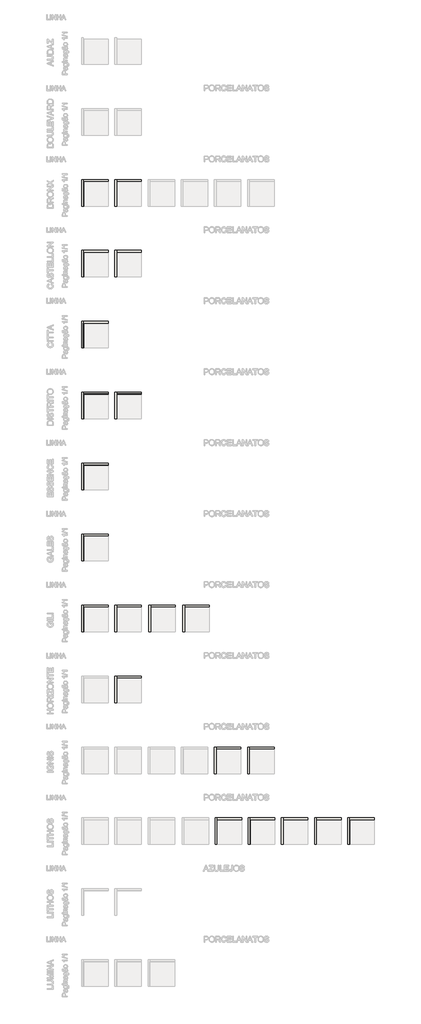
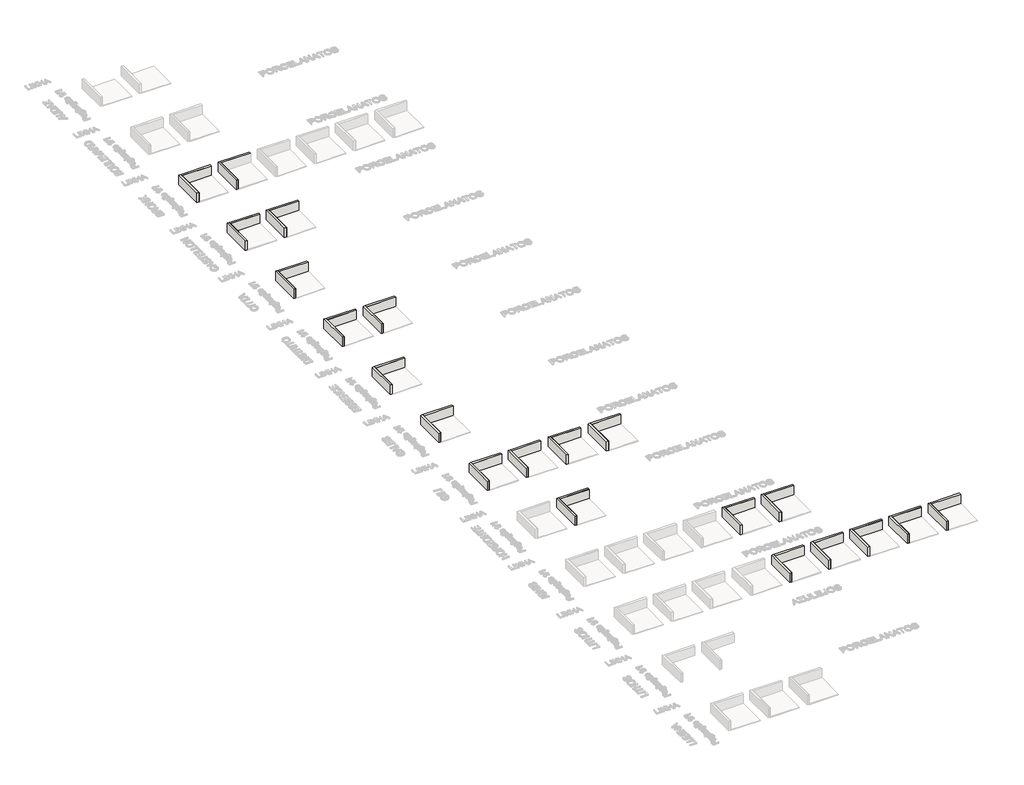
# One storey, part 4 of 22: 83 walls.
"""IFC4 building model written with IfcOpenShell, lengths in millimetres."""

import ifcopenshell
import ifcopenshell.guid

model = None  # the IFC model being written
_history = None  # IfcOwnerHistory: only IFC2X3 demands one
_inside = {}  # id of a spatial element -> (the spatial element, [elements in it])
_under = {}  # id of a project, library or spatial element -> (it, [spatial elements below it])
_declared = {}  # id of a project -> (the project, [libraries it declares])
_typed = {}  # id of a type object -> (the type object, [elements of that type])
_made_of = {}  # id of a material, layer set ... -> (it, [elements and type objects made of it])


def new_model(schema):
    """Start an empty IFC model of exactly this schema.

    Asked for "IFC4X3", IfcOpenShell would pick the latest addendum, in which some entities
    have other attributes; the version numbers below select the first issue.
    IFC2X3 requires an IfcOwnerHistory on every rooted entity: one is made here for all.
    """
    global model, _history
    if schema == "IFC4X3":
        model = ifcopenshell.file(schema_version=(4, 3, 0, 0))
    else:
        model = ifcopenshell.file(schema=schema)
    _inside.clear()
    _under.clear()
    _declared.clear()
    _typed.clear()
    _made_of.clear()
    _history = None
    if model.schema == "IFC2X3":
        org = make("IfcOrganization", Name="unknown")
        user = make(
            "IfcPersonAndOrganization",
            ThePerson=make("IfcPerson", FamilyName="unknown"),
            TheOrganization=org,
        )
        app = make(
            "IfcApplication",
            ApplicationDeveloper=org,
            Version="unknown",
            ApplicationFullName="unknown",
            ApplicationIdentifier="unknown",
        )
        _history = make(
            "IfcOwnerHistory",
            OwningUser=user,
            OwningApplication=app,
            ChangeAction="ADDED",
            CreationDate=0,
        )
    return model


def make(cls, **values):
    """One entity of the class cls with the attributes given. An attribute that is None is left unset."""
    return model.create_entity(
        cls, **{name: value for name, value in values.items() if value is not None}
    )


def rooted(cls, **values):
    """An entity with a GlobalId (a new one), such as an element, a storey or a relation."""
    return make(cls, GlobalId=ifcopenshell.guid.new(), OwnerHistory=_history, **values)


def si_unit(unit_type, name, prefix=None):
    """IfcSIUnit, for example si_unit("LENGTHUNIT", "METRE", prefix="MILLI")."""
    return make("IfcSIUnit", UnitType=unit_type, Prefix=prefix, Name=name)


def assignment(units):
    """IfcUnitAssignment: the units of a project."""
    return None if units is None else make("IfcUnitAssignment", Units=units)


def point(xyz):
    """IfcCartesianPoint."""
    return None if xyz is None else make("IfcCartesianPoint", Coordinates=xyz)


def direction(xyz):
    """IfcDirection."""
    return None if xyz is None else make("IfcDirection", DirectionRatios=xyz)


def frame(location, z_axis=None, x_axis=None):
    """IfcAxis2Placement3D, a coordinate frame: its origin and axes. An axis left out is left unset."""
    return make(
        "IfcAxis2Placement3D",
        Location=point(location),
        Axis=direction(z_axis),
        RefDirection=direction(x_axis),
    )


def origin():
    """The frame at (0, 0, 0) with its axes left unset."""
    return frame((0.0, 0.0, 0.0))


def origin_with_axes():
    """The frame at (0, 0, 0) with the z axis (0, 0, 1) and the x axis (1, 0, 0) written out."""
    return frame((0.0, 0.0, 0.0), z_axis=(0.0, 0.0, 1.0), x_axis=(1.0, 0.0, 0.0))


def place(relative_to, where):
    """IfcLocalPlacement: puts the frame where relative to a parent placement (None: the world)."""
    return make(
        "IfcLocalPlacement", PlacementRelTo=relative_to, RelativePlacement=where
    )


def context(
    kind, dimensions, precision=None, world=None, true_north=None, identifier=None
):
    """IfcGeometricRepresentationContext, for example the 3D "Model" context."""
    return make(
        "IfcGeometricRepresentationContext",
        ContextIdentifier=identifier,
        ContextType=kind,
        CoordinateSpaceDimension=dimensions,
        Precision=precision,
        WorldCoordinateSystem=world,
        TrueNorth=true_north,
    )


def project(units=None, contexts=None):
    """IfcProject with its units and contexts."""
    return rooted(
        "IfcProject",
        Name="project",
        RepresentationContexts=contexts,
        UnitsInContext=assignment(units),
    )


def spatial(cls, under=None, at=None, **own):
    """A site, building, storey or space (cls), placed at a placement, below another one or the project."""
    s = rooted(cls, ObjectPlacement=at, **own)
    if under is not None:
        _under.setdefault(under.id(), (under, []))[1].append(s)
    return s


def polyline(points):
    """IfcPolyline through the points."""
    return make("IfcPolyline", Points=[point(p) for p in points])


def outline(outer, holes=None, kind="AREA"):
    """IfcArbitraryClosedProfileDef: a profile drawn as a closed curve; with holes, ...WithVoids."""
    if holes is None:
        return make("IfcArbitraryClosedProfileDef", ProfileType=kind, OuterCurve=outer)
    return make(
        "IfcArbitraryProfileDefWithVoids",
        ProfileType=kind,
        OuterCurve=outer,
        InnerCurves=holes,
    )


def extrude(swept, where, along, depth):
    """IfcExtrudedAreaSolid: the profile swept, set in the frame where, extruded along a direction by depth."""
    return make(
        "IfcExtrudedAreaSolid",
        SweptArea=swept,
        Position=where,
        ExtrudedDirection=direction(along),
        Depth=depth,
    )


def faces_of(points, faces, orient=None, outer=None):
    """IfcFace entities. A face is a list of loops; a loop is a list of indices into points, from 0.

    orient and outer hold one flag for each loop. By default every Orientation is true, the
    first loop of a face is its IfcFaceOuterBound and the others are IfcFaceBound.
    """
    made = []
    for i, loops in enumerate(faces):
        bounds = []
        for j, loop in enumerate(loops):
            is_outer = j == 0 if outer is None else outer[i][j]
            bounds.append(
                make(
                    "IfcFaceOuterBound" if is_outer else "IfcFaceBound",
                    Bound=make("IfcPolyLoop", Polygon=[points[k] for k in loop]),
                    Orientation=True if orient is None else orient[i][j],
                )
            )
        made.append(make("IfcFace", Bounds=bounds))
    return made


def faceted_brep(points, faces, orient=None, outer=None, voids=None):
    """IfcFacetedBrep: a solid bounded by flat faces; with voids (closed shells), ...WithVoids."""
    shared = [point(p) for p in points]
    hull = make("IfcClosedShell", CfsFaces=faces_of(shared, faces, orient, outer))
    if voids is None:
        return make("IfcFacetedBrep", Outer=hull)
    return make(
        "IfcFacetedBrepWithVoids",
        Outer=hull,
        Voids=[
            make(cls, CfsFaces=faces_of(shared, fs, o, b)) for cls, fs, o, b in voids
        ],
    )


def shape(context_of_items, identifier, shape_type, items):
    """IfcShapeRepresentation: the items that make up one representation, for example the "Body"."""
    return make(
        "IfcShapeRepresentation",
        ContextOfItems=context_of_items,
        RepresentationIdentifier=identifier,
        RepresentationType=shape_type,
        Items=items,
    )


def made_of(thing, what):
    """Note that an element or type object is made of a material, layer set ...; save() writes the relation."""
    if what is not None:
        _made_of.setdefault(what.id(), (what, []))[1].append(thing)
    return thing


def element(
    cls,
    number,
    at=None,
    inside=None,
    cuts=None,
    type_object=None,
    material=None,
    context=None,
    identifier="Body",
    shape_type=None,
    held_by="IfcProductDefinitionShape",
    body=None,
    shapes=None,
    **own,
):
    """One element of the class cls, such as IfcWall. Its Tag is "e" and its number.

    at: its placement. inside: the storey or other place that contains it. cuts: it is an
    opening in that element (IfcRelVoidsElement). A single representation is given by context,
    identifier, shape_type and body (its items); several are given by shapes. held_by: the class
    of the entity that holds the representations. save() writes the other relations.
    """
    e = rooted(cls, Tag="e%d" % number, ObjectPlacement=at, **own)
    if body is not None:
        shapes = [shape(context, identifier, shape_type, body)]
    if shapes is not None:
        e.Representation = make(held_by, Representations=shapes)
    if inside is not None:
        _inside.setdefault(inside.id(), (inside, []))[1].append(e)
    if cuts is not None:
        rooted(
            "IfcRelVoidsElement", RelatingBuildingElement=cuts, RelatedOpeningElement=e
        )
    if type_object is not None:
        _typed.setdefault(type_object.id(), (type_object, []))[1].append(e)
    return made_of(e, material)


def aggregate(whole, parts):
    """IfcRelAggregates: a whole, such as a stair, and the parts it consists of."""
    return rooted("IfcRelAggregates", RelatingObject=whole, RelatedObjects=parts)


def save(model, path):
    """Write the relations noted so far, then the file.

    IfcRelAggregates (storeys below a building ...), IfcRelContainedInSpatialStructure (elements
    in a storey), IfcRelDefinesByType, IfcRelAssociatesMaterial and IfcRelDeclares: one each for
    every whole, place, type object, material and project.
    """
    for whole, parts in _under.values():
        aggregate(whole, parts)
    for where, things in _inside.values():
        rooted(
            "IfcRelContainedInSpatialStructure",
            RelatedElements=things,
            RelatingStructure=where,
        )
    for kind, things in _typed.values():
        rooted("IfcRelDefinesByType", RelatedObjects=things, RelatingType=kind)
    for what, things in _made_of.values():
        rooted("IfcRelAssociatesMaterial", RelatedObjects=things, RelatingMaterial=what)
    for by, libraries in _declared.values():
        rooted("IfcRelDeclares", RelatingContext=by, RelatedDefinitions=libraries)
    model.write(path)


model = new_model("IFC4")

# Units and contexts
model_context = context("Model", 3, world=origin())
ifc_project = project(units=[si_unit("LENGTHUNIT", "METRE", prefix="MILLI")], contexts=[model_context])

# Site, building, storey
site = spatial("IfcSite", under=ifc_project)
building = spatial("IfcBuilding", under=site)
storey = spatial("IfcBuildingStorey", under=building, Name="Showroom (N.A.)", Elevation=0.0)

# Walls
placement = place(None, origin())
element("IfcWall", 1, ObjectType="Portinari_Bronx_GR_NAT_120x120_Pag-1/1", at=placement, inside=storey, context=model_context, shape_type="Brep", body=[
    faceted_brep([(-107054.0516826, -45388.5804971, 0.0), (-110054.0516826, -45388.5804971, 0.0), (-110054.0516826, -45388.5804971, 1000.0), (-107054.0516826, -45388.5804971, 1000.0), (-107054.0516826, -45402.7804971, 0.0), (-107054.0516826, -45402.7804971, 1000.0), (-110039.8516826, -45402.7804971, 1000.0), (-110054.0516826, -45402.7804971, 1000.0), (-110054.0516826, -45402.7804971, 0.0), (-110039.8516826, -45402.7804971, 0.0)], [[[0, 1, 2, 3]], [[4, 5, 6, 7, 8, 9]], [[1, 0, 4, 9, 8]], [[3, 2, 7, 6, 5]], [[0, 3, 5, 4]], [[2, 1, 8, 7]]]),
])
element("IfcWall", 2, ObjectType="Portinari_Bronx_GR_NAT_120x120_Pag-1/1", at=placement, inside=storey, context=model_context, shape_type="SweptSolid", body=[
    extrude(outline(polyline([(-110054.0516826, -48388.5804971), (-110054.0516826, -45402.7804971), (-110039.8516826, -45402.7804971), (-110039.8516826, -48388.5804971), (-110054.0516826, -48388.5804971)])), origin_with_axes(), (0.0, 0.0, 1.0), 1000.0),
])
element("IfcWall", 3, ObjectType="Portinari_Bronx_GR_HARD_120x120_Pag-1/1", at=placement, inside=storey, context=model_context, shape_type="SweptSolid", body=[
    extrude(outline(polyline([(-106054.0516826, -48388.5804971), (-106054.0516826, -45402.7804971), (-106039.8516826, -45402.7804971), (-106039.8516826, -48388.5804971), (-106054.0516826, -48388.5804971)])), origin_with_axes(), (0.0, 0.0, 1.0), 1000.0),
])
element("IfcWall", 4, ObjectType="Portinari_Castellon_GR_POL_87,7x87,7_Pag-1/1", at=placement, inside=storey, context=model_context, shape_type="Brep", body=[
    faceted_brep([(-107054.0516826, -53951.9513759, 0.0), (-110054.0516826, -53951.9513759, 0.0), (-110054.0516826, -53951.9513759, 1000.0), (-107054.0516826, -53951.9513759, 1000.0), (-107054.0516826, -53965.9513759, 0.0), (-107054.0516826, -53965.9513759, 1000.0), (-110040.0516826, -53965.9513759, 1000.0), (-110054.0516826, -53965.9513759, 1000.0), (-110054.0516826, -53965.9513759, 0.0), (-110040.0516826, -53965.9513759, 0.0)], [[[0, 1, 2, 3]], [[4, 5, 6, 7, 8, 9]], [[1, 0, 4, 9, 8]], [[3, 2, 7, 6, 5]], [[0, 3, 5, 4]], [[2, 1, 8, 7]]]),
])
element("IfcWall", 5, ObjectType="Portinari_Castellon_GR_POL_87,7x87,7_Pag-1/1", at=placement, inside=storey, context=model_context, shape_type="SweptSolid", body=[
    extrude(outline(polyline([(-110054.0516826, -56951.9513759), (-110054.0516826, -53965.9513759), (-110040.0516826, -53965.9513759), (-110040.0516826, -56951.9513759), (-110054.0516826, -56951.9513759)])), origin_with_axes(), (0.0, 0.0, 1.0), 1000.0),
])
element("IfcWall", 6, ObjectType="Portinari_Castellon_GR_NAT_87,7x87,7_Pag-1/1", at=placement, inside=storey, context=model_context, shape_type="Brep", body=[
    faceted_brep([(-103054.0516826, -53951.9513759, 0.0), (-106054.0516826, -53951.9513759, 0.0), (-106054.0516826, -53951.9513759, 1000.0), (-103054.0516826, -53951.9513759, 1000.0), (-103054.0516826, -53965.9513759, 0.0), (-103054.0516826, -53965.9513759, 1000.0), (-106040.0516826, -53965.9513759, 1000.0), (-106054.0516826, -53965.9513759, 1000.0), (-106054.0516826, -53965.9513759, 0.0), (-106040.0516826, -53965.9513759, 0.0)], [[[0, 1, 2, 3]], [[4, 5, 6, 7, 8, 9]], [[1, 0, 4, 9, 8]], [[3, 2, 7, 6, 5]], [[0, 3, 5, 4]], [[2, 1, 8, 7]]]),
])
element("IfcWall", 7, ObjectType="Portinari_Castellon_GR_NAT_87,7x87,7_Pag-1/1", at=placement, inside=storey, context=model_context, shape_type="SweptSolid", body=[
    extrude(outline(polyline([(-106054.0516826, -56951.9513759), (-106054.0516826, -53965.9513759), (-106040.0516826, -53965.9513759), (-106040.0516826, -56951.9513759), (-106054.0516826, -56951.9513759)])), origin_with_axes(), (0.0, 0.0, 1.0), 1000.0),
])
element("IfcWall", 8, ObjectType="Portinari_Citta_GR_NAT_120x280_Pag-1/1", at=placement, inside=storey, context=model_context, shape_type="Brep", body=[
    faceted_brep([(-107054.0516826, -62515.3222548, 0.0), (-110054.0516826, -62515.3222548, 0.0), (-110054.0516826, -62515.3222548, 1000.0), (-107054.0516826, -62515.3222548, 1000.0), (-107054.0516826, -62526.3222548, 0.0), (-107054.0516826, -62526.3222548, 1000.0), (-110043.0516826, -62526.3222548, 1000.0), (-110054.0516826, -62526.3222548, 1000.0), (-110054.0516826, -62526.3222548, 0.0), (-110043.0516826, -62526.3222548, 0.0)], [[[0, 1, 2, 3]], [[4, 5, 6, 7, 8, 9]], [[1, 0, 4, 9, 8]], [[3, 2, 7, 6, 5]], [[0, 3, 5, 4]], [[2, 1, 8, 7]]]),
])
element("IfcWall", 9, ObjectType="Portinari_Citta_GR_NAT_120x280_Pag-1/1", at=placement, inside=storey, context=model_context, shape_type="SweptSolid", body=[
    extrude(outline(polyline([(-110054.0516826, -65515.3222548), (-110054.0516826, -62526.3222548), (-110043.0516826, -62526.3222548), (-110043.0516826, -65515.3222548), (-110054.0516826, -65515.3222548)])), origin_with_axes(), (0.0, 0.0, 1.0), 1000.0),
])
element("IfcWall", 10, ObjectType="Portinari_Distrito_SBE_HARD_80x80_Pag-1/1", at=placement, inside=storey, context=model_context, shape_type="Brep", body=[
    faceted_brep([(-107054.0516826, -71078.6931337, 0.0), (-110054.0516826, -71078.6931337, 0.0), (-110054.0516826, -71078.6931337, 1000.0), (-107054.0516826, -71078.6931337, 1000.0), (-107054.0516826, -71093.8931337, 0.0), (-107054.0516826, -71093.8931337, 1000.0), (-110038.8516826, -71093.8931337, 1000.0), (-110054.0516826, -71093.8931337, 1000.0), (-110054.0516826, -71093.8931337, 0.0), (-110038.8516826, -71093.8931337, 0.0)], [[[0, 1, 2, 3]], [[4, 5, 6, 7, 8, 9]], [[1, 0, 4, 9, 8]], [[3, 2, 7, 6, 5]], [[0, 3, 5, 4]], [[2, 1, 8, 7]]]),
])
element("IfcWall", 11, ObjectType="Portinari_Distrito_SBE_HARD_80x80_Pag-1/1", at=placement, inside=storey, context=model_context, shape_type="SweptSolid", body=[
    extrude(outline(polyline([(-110054.0516826, -74078.6931337), (-110054.0516826, -71093.8931337), (-110038.8516826, -71093.8931337), (-110038.8516826, -74078.6931337), (-110054.0516826, -74078.6931337)])), origin_with_axes(), (0.0, 0.0, 1.0), 1000.0),
])
element("IfcWall", 12, ObjectType="Portinari_Distrito_SBE_NAT_80x80_Pag-1/1", at=placement, inside=storey, context=model_context, shape_type="Brep", body=[
    faceted_brep([(-103054.0516826, -71078.6931337, 0.0), (-106054.0516826, -71078.6931337, 0.0), (-106054.0516826, -71078.6931337, 1000.0), (-103054.0516826, -71078.6931337, 1000.0), (-103054.0516826, -71093.8931337, 0.0), (-103054.0516826, -71093.8931337, 1000.0), (-106038.8516826, -71093.8931337, 1000.0), (-106054.0516826, -71093.8931337, 1000.0), (-106054.0516826, -71093.8931337, 0.0), (-106038.8516826, -71093.8931337, 0.0)], [[[0, 1, 2, 3]], [[4, 5, 6, 7, 8, 9]], [[1, 0, 4, 9, 8]], [[3, 2, 7, 6, 5]], [[0, 3, 5, 4]], [[2, 1, 8, 7]]]),
])
element("IfcWall", 13, ObjectType="Portinari_Distrito_SBE_NAT_80x80_Pag-1/1", at=placement, inside=storey, context=model_context, shape_type="SweptSolid", body=[
    extrude(outline(polyline([(-106054.0516826, -74078.6931337), (-106054.0516826, -71093.8931337), (-106038.8516826, -71093.8931337), (-106038.8516826, -74078.6931337), (-106054.0516826, -74078.6931337)])), origin_with_axes(), (0.0, 0.0, 1.0), 1000.0),
])
element("IfcWall", 14, ObjectType="Portinari_Bianco_NAT_80x80_Pag-1/1", at=placement, inside=storey, context=model_context, shape_type="Brep", body=[
    faceted_brep([(-107054.0516826, -79642.0640125, 0.0), (-110054.0516826, -79642.0640125, 0.0), (-110054.0516826, -79642.0640125, 1000.0), (-107054.0516826, -79642.0640125, 1000.0), (-107054.0516826, -79657.2640125, 0.0), (-107054.0516826, -79657.2640125, 1000.0), (-110038.8516826, -79657.2640125, 1000.0), (-110054.0516826, -79657.2640125, 1000.0), (-110054.0516826, -79657.2640125, 0.0), (-110038.8516826, -79657.2640125, 0.0)], [[[0, 1, 2, 3]], [[4, 5, 6, 7, 8, 9]], [[1, 0, 4, 9, 8]], [[3, 2, 7, 6, 5]], [[0, 3, 5, 4]], [[2, 1, 8, 7]]]),
])
element("IfcWall", 15, ObjectType="Portinari_Bianco_NAT_80x80_Pag-1/1", at=placement, inside=storey, context=model_context, shape_type="SweptSolid", body=[
    extrude(outline(polyline([(-110054.0516826, -82642.0640125), (-110054.0516826, -79657.2640125), (-110038.8516826, -79657.2640125), (-110038.8516826, -82642.0640125), (-110054.0516826, -82642.0640125)])), origin_with_axes(), (0.0, 0.0, 1.0), 1000.0),
])
element("IfcWall", 16, ObjectType="Portinari_Gales_SGR_NAT_120x280_Pag-1/1", at=placement, inside=storey, context=model_context, shape_type="Brep", body=[
    faceted_brep([(-107054.0516826, -88205.4348914, 0.0), (-110054.0516826, -88205.4348914, 0.0), (-110054.0516826, -88205.4348914, 1000.0), (-107054.0516826, -88205.4348914, 1000.0), (-107054.0516826, -88216.4348914, 0.0), (-107054.0516826, -88216.4348914, 1000.0), (-110043.0516826, -88216.4348914, 1000.0), (-110054.0516826, -88216.4348914, 1000.0), (-110054.0516826, -88216.4348914, 0.0), (-110043.0516826, -88216.4348914, 0.0)], [[[0, 1, 2, 3]], [[4, 5, 6, 7, 8, 9]], [[1, 0, 4, 9, 8]], [[3, 2, 7, 6, 5]], [[0, 3, 5, 4]], [[2, 1, 8, 7]]]),
])
element("IfcWall", 17, ObjectType="Portinari_Gales_SGR_NAT_120x280_Pag-1/1", at=placement, inside=storey, context=model_context, shape_type="SweptSolid", body=[
    extrude(outline(polyline([(-110054.0516826, -91205.4348914), (-110054.0516826, -88216.4348914), (-110043.0516826, -88216.4348914), (-110043.0516826, -91205.4348914), (-110054.0516826, -91205.4348914)])), origin_with_axes(), (0.0, 0.0, 1.0), 1000.0),
])
element("IfcWall", 18, ObjectType="Portinari_Gili_GN_HARD_15x15_Pag-1/1", at=placement, inside=storey, context=model_context, shape_type="Brep", body=[
    faceted_brep([(-107054.0516826, -96768.8057702, 0.0), (-110054.0516826, -96768.8057702, 0.0), (-110054.0516826, -96768.8057702, 1000.0), (-107054.0516826, -96768.8057702, 1000.0), (-107054.0516826, -96781.2057702, 0.0), (-107054.0516826, -96781.2057702, 1000.0), (-110041.6516826, -96781.2057702, 1000.0), (-110054.0516826, -96781.2057702, 1000.0), (-110054.0516826, -96781.2057702, 0.0), (-110041.6516826, -96781.2057702, 0.0)], [[[0, 1, 2, 3]], [[4, 5, 6, 7, 8, 9]], [[1, 0, 4, 9, 8]], [[3, 2, 7, 6, 5]], [[0, 3, 5, 4]], [[2, 1, 8, 7]]]),
])
element("IfcWall", 19, ObjectType="Portinari_Gili_GN_HARD_15x15_Pag-1/1", at=placement, inside=storey, context=model_context, shape_type="SweptSolid", body=[
    extrude(outline(polyline([(-110054.0516826, -99768.8057702), (-110054.0516826, -96781.2057702), (-110041.6516826, -96781.2057702), (-110041.6516826, -99768.8057702), (-110054.0516826, -99768.8057702)])), origin_with_axes(), (0.0, 0.0, 1.0), 1000.0),
])
element("IfcWall", 20, ObjectType="Portinari_Gili_BE_HARD_15x15_Pag-1/1", at=placement, inside=storey, context=model_context, shape_type="Brep", body=[
    faceted_brep([(-103054.0516826, -96768.8057702, 0.0), (-106054.0516826, -96768.8057702, 0.0), (-106054.0516826, -96768.8057702, 1000.0), (-103054.0516826, -96768.8057702, 1000.0), (-103054.0516826, -96781.2057702, 0.0), (-103054.0516826, -96781.2057702, 1000.0), (-106041.6516826, -96781.2057702, 1000.0), (-106054.0516826, -96781.2057702, 1000.0), (-106054.0516826, -96781.2057702, 0.0), (-106041.6516826, -96781.2057702, 0.0)], [[[0, 1, 2, 3]], [[4, 5, 6, 7, 8, 9]], [[1, 0, 4, 9, 8]], [[3, 2, 7, 6, 5]], [[0, 3, 5, 4]], [[2, 1, 8, 7]]]),
])
element("IfcWall", 21, ObjectType="Portinari_Gili_BE_HARD_15x15_Pag-1/1", at=placement, inside=storey, context=model_context, shape_type="SweptSolid", body=[
    extrude(outline(polyline([(-106054.0516826, -99768.8057702), (-106054.0516826, -96781.2057702), (-106041.6516826, -96781.2057702), (-106041.6516826, -99768.8057702), (-106054.0516826, -99768.8057702)])), origin_with_axes(), (0.0, 0.0, 1.0), 1000.0),
])
element("IfcWall", 22, ObjectType="Portinari_Gili_GN_NAT_15x15_Pag-1/1", at=placement, inside=storey, context=model_context, shape_type="Brep", body=[
    faceted_brep([(-98954.0516826, -96768.8057702, 0.0), (-101954.0516826, -96768.8057702, 0.0), (-101954.0516826, -96768.8057702, 1000.0), (-98954.0516826, -96768.8057702, 1000.0), (-98954.0516826, -96781.2057702, 0.0), (-98954.0516826, -96781.2057702, 1000.0), (-101941.6516826, -96781.2057702, 1000.0), (-101954.0516826, -96781.2057702, 1000.0), (-101954.0516826, -96781.2057702, 0.0), (-101941.6516826, -96781.2057702, 0.0)], [[[0, 1, 2, 3]], [[4, 5, 6, 7, 8, 9]], [[1, 0, 4, 9, 8]], [[3, 2, 7, 6, 5]], [[0, 3, 5, 4]], [[2, 1, 8, 7]]]),
])
element("IfcWall", 23, ObjectType="Portinari_Gili_GN_NAT_15x15_Pag-1/1", at=placement, inside=storey, context=model_context, shape_type="SweptSolid", body=[
    extrude(outline(polyline([(-101954.0516826, -99768.8057702), (-101954.0516826, -96781.2057702), (-101941.6516826, -96781.2057702), (-101941.6516826, -99768.8057702), (-101954.0516826, -99768.8057702)])), origin_with_axes(), (0.0, 0.0, 1.0), 1000.0),
])
element("IfcWall", 24, ObjectType="Portinari_Gili_BE_NAT_15x15_Pag-1/1", at=placement, inside=storey, context=model_context, shape_type="Brep", body=[
    faceted_brep([(-94854.0516826, -96768.8057702, 0.0), (-97854.0516826, -96768.8057702, 0.0), (-97854.0516826, -96768.8057702, 1000.0), (-94854.0516826, -96768.8057702, 1000.0), (-94854.0516826, -96781.2057702, 0.0), (-94854.0516826, -96781.2057702, 1000.0), (-97841.6516826, -96781.2057702, 1000.0), (-97854.0516826, -96781.2057702, 1000.0), (-97854.0516826, -96781.2057702, 0.0), (-97841.6516826, -96781.2057702, 0.0)], [[[0, 1, 2, 3]], [[4, 5, 6, 7, 8, 9]], [[1, 0, 4, 9, 8]], [[3, 2, 7, 6, 5]], [[0, 3, 5, 4]], [[2, 1, 8, 7]]]),
])
element("IfcWall", 25, ObjectType="Portinari_Gili_BE_NAT_15x15_Pag-1/1", at=placement, inside=storey, context=model_context, shape_type="SweptSolid", body=[
    extrude(outline(polyline([(-97854.0516826, -99768.8057702), (-97854.0516826, -96781.2057702), (-97841.6516826, -96781.2057702), (-97841.6516826, -99768.8057702), (-97854.0516826, -99768.8057702)])), origin_with_axes(), (0.0, 0.0, 1.0), 1000.0),
])
element("IfcWall", 26, ObjectType="Portinari_Horizonte_BW_MLX_15x15_Pag-1/1", at=placement, inside=storey, context=model_context, shape_type="Brep", body=[
    faceted_brep([(-103054.0516826, -105332.1766491, 0.0), (-106054.0516826, -105332.1766491, 0.0), (-106054.0516826, -105332.1766491, 1000.0), (-103054.0516826, -105332.1766491, 1000.0), (-103054.0516826, -105344.5766491, 0.0), (-103054.0516826, -105344.5766491, 1000.0), (-106041.6516826, -105344.5766491, 1000.0), (-106054.0516826, -105344.5766491, 1000.0), (-106054.0516826, -105344.5766491, 0.0), (-106041.6516826, -105344.5766491, 0.0)], [[[0, 1, 2, 3]], [[4, 5, 6, 7, 8, 9]], [[1, 0, 4, 9, 8]], [[3, 2, 7, 6, 5]], [[0, 3, 5, 4]], [[2, 1, 8, 7]]]),
])
element("IfcWall", 27, ObjectType="Portinari_Horizonte_BW_MLX_15x15_Pag-1/1", at=placement, inside=storey, context=model_context, shape_type="SweptSolid", body=[
    extrude(outline(polyline([(-106054.0516826, -108332.1766491), (-106054.0516826, -105344.5766491), (-106041.6516826, -105344.5766491), (-106041.6516826, -108332.1766491), (-106054.0516826, -108332.1766491)])), origin_with_axes(), (0.0, 0.0, 1.0), 1000.0),
])
element("IfcWall", 28, ObjectType="Portinari_Ignis_BK_HARD_87,7x87,7_Pag-1/1", at=placement, inside=storey, context=model_context, shape_type="Brep", body=[
    faceted_brep([(-91054.0516826, -113895.547528, 0.0), (-94054.0516826, -113895.547528, 0.0), (-94054.0516826, -113895.547528, 1000.0), (-91054.0516826, -113895.547528, 1000.0), (-91054.0516826, -113909.547528, 0.0), (-91054.0516826, -113909.547528, 1000.0), (-94040.0516826, -113909.547528, 1000.0), (-94054.0516826, -113909.547528, 1000.0), (-94054.0516826, -113909.547528, 0.0), (-94040.0516826, -113909.547528, 0.0)], [[[0, 1, 2, 3]], [[4, 5, 6, 7, 8, 9]], [[1, 0, 4, 9, 8]], [[3, 2, 7, 6, 5]], [[0, 3, 5, 4]], [[2, 1, 8, 7]]]),
])
element("IfcWall", 29, ObjectType="Portinari_Ignis_BK_HARD_87,7x87,7_Pag-1/1", at=placement, inside=storey, context=model_context, shape_type="SweptSolid", body=[
    extrude(outline(polyline([(-94054.0516826, -116895.547528), (-94054.0516826, -113909.547528), (-94040.0516826, -113909.547528), (-94040.0516826, -116895.547528), (-94054.0516826, -116895.547528)])), origin_with_axes(), (0.0, 0.0, 1.0), 1000.0),
])
element("IfcWall", 30, ObjectType="Portinari_Ignis_GR_NAT_87,7x87,7_Pag-1/1", at=placement, inside=storey, context=model_context, shape_type="Brep", body=[
    faceted_brep([(-87054.0516826, -113895.547528, 0.0), (-90054.0516826, -113895.547528, 0.0), (-90054.0516826, -113895.547528, 1000.0), (-87054.0516826, -113895.547528, 1000.0), (-87054.0516826, -113909.547528, 0.0), (-87054.0516826, -113909.547528, 1000.0), (-90040.0516826, -113909.547528, 1000.0), (-90054.0516826, -113909.547528, 1000.0), (-90054.0516826, -113909.547528, 0.0), (-90040.0516826, -113909.547528, 0.0)], [[[0, 1, 2, 3]], [[4, 5, 6, 7, 8, 9]], [[1, 0, 4, 9, 8]], [[3, 2, 7, 6, 5]], [[0, 3, 5, 4]], [[2, 1, 8, 7]]]),
])
element("IfcWall", 31, ObjectType="Portinari_Ignis_GR_NAT_87,7x87,7_Pag-1/1", at=placement, inside=storey, context=model_context, shape_type="SweptSolid", body=[
    extrude(outline(polyline([(-90054.0516826, -116895.547528), (-90054.0516826, -113909.547528), (-90040.0516826, -113909.547528), (-90040.0516826, -116895.547528), (-90054.0516826, -116895.547528)])), origin_with_axes(), (0.0, 0.0, 1.0), 1000.0),
])
element("IfcWall", 32, ObjectType="Portinari_Lithos_BK_NAT_87,7x87,7_Pag-1/1", at=placement, inside=storey, context=model_context, shape_type="Brep", body=[
    faceted_brep([(-90954.0516826, -122458.9184068, 0.0), (-93954.0516826, -122458.9184068, 0.0), (-93954.0516826, -122458.9184068, 1000.0), (-90954.0516826, -122458.9184068, 1000.0), (-90954.0516826, -122472.9184068, 0.0), (-90954.0516826, -122472.9184068, 1000.0), (-93940.0516826, -122472.9184068, 1000.0), (-93954.0516826, -122472.9184068, 1000.0), (-93954.0516826, -122472.9184068, 0.0), (-93940.0516826, -122472.9184068, 0.0)], [[[0, 1, 2, 3]], [[4, 5, 6, 7, 8, 9]], [[1, 0, 4, 9, 8]], [[3, 2, 7, 6, 5]], [[0, 3, 5, 4]], [[2, 1, 8, 7]]]),
])
element("IfcWall", 33, ObjectType="Portinari_Lithos_BK_NAT_87,7x87,7_Pag-1/1", at=placement, inside=storey, context=model_context, shape_type="SweptSolid", body=[
    extrude(outline(polyline([(-93954.0516826, -125458.9184068), (-93954.0516826, -122472.9184068), (-93940.0516826, -122472.9184068), (-93940.0516826, -125458.9184068), (-93954.0516826, -125458.9184068)])), origin_with_axes(), (0.0, 0.0, 1.0), 1000.0),
])
element("IfcWall", 34, ObjectType="Portinari_Lithos_GR_HARD_87,7x87,7_Pag-1/1", at=placement, inside=storey, context=model_context, shape_type="Brep", body=[
    faceted_brep([(-86954.0516826, -122458.9184068, 0.0), (-89954.0516826, -122458.9184068, 0.0), (-89954.0516826, -122458.9184068, 1000.0), (-86954.0516826, -122458.9184068, 1000.0), (-86954.0516826, -122472.9184068, 0.0), (-86954.0516826, -122472.9184068, 1000.0), (-89940.0516826, -122472.9184068, 1000.0), (-89954.0516826, -122472.9184068, 1000.0), (-89954.0516826, -122472.9184068, 0.0), (-89940.0516826, -122472.9184068, 0.0)], [[[0, 1, 2, 3]], [[4, 5, 6, 7, 8, 9]], [[1, 0, 4, 9, 8]], [[3, 2, 7, 6, 5]], [[0, 3, 5, 4]], [[2, 1, 8, 7]]]),
])
element("IfcWall", 35, ObjectType="Portinari_Lithos_GR_HARD_87,7x87,7_Pag-1/1", at=placement, inside=storey, context=model_context, shape_type="SweptSolid", body=[
    extrude(outline(polyline([(-89954.0516826, -125458.9184068), (-89954.0516826, -122472.9184068), (-89940.0516826, -122472.9184068), (-89940.0516826, -125458.9184068), (-89954.0516826, -125458.9184068)])), origin_with_axes(), (0.0, 0.0, 1.0), 1000.0),
])
element("IfcWall", 36, ObjectType="Portinari_Lithos_GR_NAT_87,7x87,7_Pag-1/1", at=placement, inside=storey, context=model_context, shape_type="Brep", body=[
    faceted_brep([(-82954.0516826, -122458.9184068, 0.0), (-85954.0516826, -122458.9184068, 0.0), (-85954.0516826, -122458.9184068, 1000.0), (-82954.0516826, -122458.9184068, 1000.0), (-82954.0516826, -122472.9184068, 0.0), (-82954.0516826, -122472.9184068, 1000.0), (-85940.0516826, -122472.9184068, 1000.0), (-85954.0516826, -122472.9184068, 1000.0), (-85954.0516826, -122472.9184068, 0.0), (-85940.0516826, -122472.9184068, 0.0)], [[[0, 1, 2, 3]], [[4, 5, 6, 7, 8, 9]], [[1, 0, 4, 9, 8]], [[3, 2, 7, 6, 5]], [[0, 3, 5, 4]], [[2, 1, 8, 7]]]),
])
element("IfcWall", 37, ObjectType="Portinari_Lithos_GR_NAT_87,7x87,7_Pag-1/1", at=placement, inside=storey, context=model_context, shape_type="SweptSolid", body=[
    extrude(outline(polyline([(-85954.0516826, -125458.9184068), (-85954.0516826, -122472.9184068), (-85940.0516826, -122472.9184068), (-85940.0516826, -125458.9184068), (-85954.0516826, -125458.9184068)])), origin_with_axes(), (0.0, 0.0, 1.0), 1000.0),
])
element("IfcWall", 38, ObjectType="Portinari_Lithos_SGR_HARD_87,7x87,7_Pag-1/1", at=placement, inside=storey, context=model_context, shape_type="Brep", body=[
    faceted_brep([(-78954.0516826, -122458.9184068, 0.0), (-81954.0516826, -122458.9184068, 0.0), (-81954.0516826, -122458.9184068, 1000.0), (-78954.0516826, -122458.9184068, 1000.0), (-78954.0516826, -122472.9184068, 0.0), (-78954.0516826, -122472.9184068, 1000.0), (-81940.0516826, -122472.9184068, 1000.0), (-81954.0516826, -122472.9184068, 1000.0), (-81954.0516826, -122472.9184068, 0.0), (-81940.0516826, -122472.9184068, 0.0)], [[[0, 1, 2, 3]], [[4, 5, 6, 7, 8, 9]], [[1, 0, 4, 9, 8]], [[3, 2, 7, 6, 5]], [[0, 3, 5, 4]], [[2, 1, 8, 7]]]),
])
element("IfcWall", 39, ObjectType="Portinari_Lithos_SGR_HARD_87,7x87,7_Pag-1/1", at=placement, inside=storey, context=model_context, shape_type="SweptSolid", body=[
    extrude(outline(polyline([(-81954.0516826, -125458.9184068), (-81954.0516826, -122472.9184068), (-81940.0516826, -122472.9184068), (-81940.0516826, -125458.9184068), (-81954.0516826, -125458.9184068)])), origin_with_axes(), (0.0, 0.0, 1.0), 1000.0),
])
element("IfcWall", 40, ObjectType="Portinari_Lithos_SGR_NAT_87,7x87,7_Pag-1/1", at=placement, inside=storey, context=model_context, shape_type="Brep", body=[
    faceted_brep([(-74954.0516826, -122458.9184068, 0.0), (-77954.0516826, -122458.9184068, 0.0), (-77954.0516826, -122458.9184068, 1000.0), (-74954.0516826, -122458.9184068, 1000.0), (-74954.0516826, -122472.9184068, 0.0), (-74954.0516826, -122472.9184068, 1000.0), (-77940.0516826, -122472.9184068, 1000.0), (-77954.0516826, -122472.9184068, 1000.0), (-77954.0516826, -122472.9184068, 0.0), (-77940.0516826, -122472.9184068, 0.0)], [[[0, 1, 2, 3]], [[4, 5, 6, 7, 8, 9]], [[1, 0, 4, 9, 8]], [[3, 2, 7, 6, 5]], [[0, 3, 5, 4]], [[2, 1, 8, 7]]]),
])
element("IfcWall", 41, ObjectType="Portinari_Lithos_SGR_NAT_87,7x87,7_Pag-1/1", at=placement, inside=storey, context=model_context, shape_type="SweptSolid", body=[
    extrude(outline(polyline([(-77954.0516826, -125458.9184068), (-77954.0516826, -122472.9184068), (-77940.0516826, -122472.9184068), (-77940.0516826, -125458.9184068), (-77954.0516826, -125458.9184068)])), origin_with_axes(), (0.0, 0.0, 1.0), 1000.0),
])
element("IfcWall", 42, ObjectType="Wall 1", at=placement, inside=storey, context=model_context, shape_type="Brep", body=[
    faceted_brep([(-110054.0516826, -48388.5804971, 0.0), (-110054.0516826, -45388.5804971, 0.0), (-110054.0516826, -45188.5804971, 0.0), (-110054.0516826, -45188.5804971, 1000.0), (-110054.0516826, -45388.5804971, 1000.0), (-110054.0516826, -48388.5804971, 1000.0), (-110254.0516826, -48388.5804971, 0.0), (-110254.0516826, -48388.5804971, 1000.0), (-110254.0516826, -45188.5804971, 1000.0), (-110254.0516826, -45188.5804971, 0.0)], [[[0, 1, 2, 3, 4, 5]], [[6, 7, 8, 9]], [[2, 1, 0, 6, 9]], [[5, 4, 3, 8, 7]], [[0, 5, 7, 6]], [[3, 2, 9, 8]]]),
])
element("IfcWall", 43, ObjectType="Wall 1", at=placement, inside=storey, context=model_context, shape_type="SweptSolid", body=[
    extrude(outline(polyline([(-107054.0516826, -45388.5804971), (-110054.0516826, -45388.5804971), (-110054.0516826, -45188.5804971), (-107054.0516826, -45188.5804971), (-107054.0516826, -45388.5804971)])), origin_with_axes(), (0.0, 0.0, 1.0), 1000.0),
])
element("IfcWall", 44, ObjectType="Wall 1", at=placement, inside=storey, context=model_context, shape_type="Brep", body=[
    faceted_brep([(-106054.0516826, -48388.5804971, 0.0), (-106054.0516826, -45388.5804971, 0.0), (-106054.0516826, -45188.5804971, 0.0), (-106054.0516826, -45188.5804971, 1000.0), (-106054.0516826, -45388.5804971, 1000.0), (-106054.0516826, -48388.5804971, 1000.0), (-106254.0516826, -48388.5804971, 0.0), (-106254.0516826, -48388.5804971, 1000.0), (-106254.0516826, -45188.5804971, 1000.0), (-106254.0516826, -45188.5804971, 0.0)], [[[0, 1, 2, 3, 4, 5]], [[6, 7, 8, 9]], [[2, 1, 0, 6, 9]], [[5, 4, 3, 8, 7]], [[0, 5, 7, 6]], [[3, 2, 9, 8]]]),
])
element("IfcWall", 45, ObjectType="Wall 1", at=placement, inside=storey, context=model_context, shape_type="SweptSolid", body=[
    extrude(outline(polyline([(-103054.0516826, -45388.5804971), (-106054.0516826, -45388.5804971), (-106054.0516826, -45188.5804971), (-103054.0516826, -45188.5804971), (-103054.0516826, -45388.5804971)])), origin_with_axes(), (0.0, 0.0, 1.0), 1000.0),
])
element("IfcWall", 46, ObjectType="Wall 1", at=placement, inside=storey, context=model_context, shape_type="Brep", body=[
    faceted_brep([(-110054.0516826, -56951.9513759, 0.0), (-110054.0516826, -53951.9513759, 0.0), (-110054.0516826, -53751.9513759, 0.0), (-110054.0516826, -53751.9513759, 1000.0), (-110054.0516826, -53951.9513759, 1000.0), (-110054.0516826, -56951.9513759, 1000.0), (-110254.0516826, -56951.9513759, 0.0), (-110254.0516826, -56951.9513759, 1000.0), (-110254.0516826, -53751.9513759, 1000.0), (-110254.0516826, -53751.9513759, 0.0)], [[[0, 1, 2, 3, 4, 5]], [[6, 7, 8, 9]], [[2, 1, 0, 6, 9]], [[5, 4, 3, 8, 7]], [[0, 5, 7, 6]], [[3, 2, 9, 8]]]),
])
element("IfcWall", 47, ObjectType="Wall 1", at=placement, inside=storey, context=model_context, shape_type="SweptSolid", body=[
    extrude(outline(polyline([(-107054.0516826, -53951.9513759), (-110054.0516826, -53951.9513759), (-110054.0516826, -53751.9513759), (-107054.0516826, -53751.9513759), (-107054.0516826, -53951.9513759)])), origin_with_axes(), (0.0, 0.0, 1.0), 1000.0),
])
element("IfcWall", 48, ObjectType="Wall 1", at=placement, inside=storey, context=model_context, shape_type="Brep", body=[
    faceted_brep([(-106054.0516826, -56951.9513759, 0.0), (-106054.0516826, -53951.9513759, 0.0), (-106054.0516826, -53751.9513759, 0.0), (-106054.0516826, -53751.9513759, 1000.0), (-106054.0516826, -53951.9513759, 1000.0), (-106054.0516826, -56951.9513759, 1000.0), (-106254.0516826, -56951.9513759, 0.0), (-106254.0516826, -56951.9513759, 1000.0), (-106254.0516826, -53751.9513759, 1000.0), (-106254.0516826, -53751.9513759, 0.0)], [[[0, 1, 2, 3, 4, 5]], [[6, 7, 8, 9]], [[2, 1, 0, 6, 9]], [[5, 4, 3, 8, 7]], [[0, 5, 7, 6]], [[3, 2, 9, 8]]]),
])
element("IfcWall", 49, ObjectType="Wall 1", at=placement, inside=storey, context=model_context, shape_type="SweptSolid", body=[
    extrude(outline(polyline([(-103054.0516826, -53951.9513759), (-106054.0516826, -53951.9513759), (-106054.0516826, -53751.9513759), (-103054.0516826, -53751.9513759), (-103054.0516826, -53951.9513759)])), origin_with_axes(), (0.0, 0.0, 1.0), 1000.0),
])
element("IfcWall", 50, ObjectType="Wall 1", at=placement, inside=storey, context=model_context, shape_type="Brep", body=[
    faceted_brep([(-110054.0516826, -65515.3222548, 0.0), (-110054.0516826, -62515.3222548, 0.0), (-110054.0516826, -62315.3222548, 0.0), (-110054.0516826, -62315.3222548, 1000.0), (-110054.0516826, -62515.3222548, 1000.0), (-110054.0516826, -65515.3222548, 1000.0), (-110254.0516826, -65515.3222548, 0.0), (-110254.0516826, -65515.3222548, 1000.0), (-110254.0516826, -62315.3222548, 1000.0), (-110254.0516826, -62315.3222548, 0.0)], [[[0, 1, 2, 3, 4, 5]], [[6, 7, 8, 9]], [[2, 1, 0, 6, 9]], [[5, 4, 3, 8, 7]], [[0, 5, 7, 6]], [[3, 2, 9, 8]]]),
])
element("IfcWall", 51, ObjectType="Wall 1", at=placement, inside=storey, context=model_context, shape_type="SweptSolid", body=[
    extrude(outline(polyline([(-107054.0516826, -62515.3222548), (-110054.0516826, -62515.3222548), (-110054.0516826, -62315.3222548), (-107054.0516826, -62315.3222548), (-107054.0516826, -62515.3222548)])), origin_with_axes(), (0.0, 0.0, 1.0), 1000.0),
])
element("IfcWall", 52, ObjectType="Wall 1", at=placement, inside=storey, context=model_context, shape_type="Brep", body=[
    faceted_brep([(-110054.0516826, -74078.6931337, 0.0), (-110054.0516826, -71078.6931337, 0.0), (-110054.0516826, -70878.6931337, 0.0), (-110054.0516826, -70878.6931337, 1000.0), (-110054.0516826, -71078.6931337, 1000.0), (-110054.0516826, -74078.6931337, 1000.0), (-110254.0516826, -74078.6931337, 0.0), (-110254.0516826, -74078.6931337, 1000.0), (-110254.0516826, -70878.6931337, 1000.0), (-110254.0516826, -70878.6931337, 0.0)], [[[0, 1, 2, 3, 4, 5]], [[6, 7, 8, 9]], [[2, 1, 0, 6, 9]], [[5, 4, 3, 8, 7]], [[0, 5, 7, 6]], [[3, 2, 9, 8]]]),
])
element("IfcWall", 53, ObjectType="Wall 1", at=placement, inside=storey, context=model_context, shape_type="SweptSolid", body=[
    extrude(outline(polyline([(-107054.0516826, -71078.6931337), (-110054.0516826, -71078.6931337), (-110054.0516826, -70878.6931337), (-107054.0516826, -70878.6931337), (-107054.0516826, -71078.6931337)])), origin_with_axes(), (0.0, 0.0, 1.0), 1000.0),
])
element("IfcWall", 54, ObjectType="Wall 1", at=placement, inside=storey, context=model_context, shape_type="Brep", body=[
    faceted_brep([(-106054.0516826, -74078.6931337, 0.0), (-106054.0516826, -71078.6931337, 0.0), (-106054.0516826, -70878.6931337, 0.0), (-106054.0516826, -70878.6931337, 1000.0), (-106054.0516826, -71078.6931337, 1000.0), (-106054.0516826, -74078.6931337, 1000.0), (-106254.0516826, -74078.6931337, 0.0), (-106254.0516826, -74078.6931337, 1000.0), (-106254.0516826, -70878.6931337, 1000.0), (-106254.0516826, -70878.6931337, 0.0)], [[[0, 1, 2, 3, 4, 5]], [[6, 7, 8, 9]], [[2, 1, 0, 6, 9]], [[5, 4, 3, 8, 7]], [[0, 5, 7, 6]], [[3, 2, 9, 8]]]),
])
element("IfcWall", 55, ObjectType="Wall 1", at=placement, inside=storey, context=model_context, shape_type="SweptSolid", body=[
    extrude(outline(polyline([(-103054.0516826, -71078.6931337), (-106054.0516826, -71078.6931337), (-106054.0516826, -70878.6931337), (-103054.0516826, -70878.6931337), (-103054.0516826, -71078.6931337)])), origin_with_axes(), (0.0, 0.0, 1.0), 1000.0),
])
element("IfcWall", 56, ObjectType="Wall 1", at=placement, inside=storey, context=model_context, shape_type="Brep", body=[
    faceted_brep([(-110054.0516826, -82642.0640125, 0.0), (-110054.0516826, -79642.0640125, 0.0), (-110054.0516826, -79442.0640125, 0.0), (-110054.0516826, -79442.0640125, 1000.0), (-110054.0516826, -79642.0640125, 1000.0), (-110054.0516826, -82642.0640125, 1000.0), (-110254.0516826, -82642.0640125, 0.0), (-110254.0516826, -82642.0640125, 1000.0), (-110254.0516826, -79442.0640125, 1000.0), (-110254.0516826, -79442.0640125, 0.0)], [[[0, 1, 2, 3, 4, 5]], [[6, 7, 8, 9]], [[2, 1, 0, 6, 9]], [[5, 4, 3, 8, 7]], [[0, 5, 7, 6]], [[3, 2, 9, 8]]]),
])
element("IfcWall", 57, ObjectType="Wall 1", at=placement, inside=storey, context=model_context, shape_type="SweptSolid", body=[
    extrude(outline(polyline([(-107054.0516826, -79642.0640125), (-110054.0516826, -79642.0640125), (-110054.0516826, -79442.0640125), (-107054.0516826, -79442.0640125), (-107054.0516826, -79642.0640125)])), origin_with_axes(), (0.0, 0.0, 1.0), 1000.0),
])
element("IfcWall", 58, ObjectType="Wall 1", at=placement, inside=storey, context=model_context, shape_type="Brep", body=[
    faceted_brep([(-110054.0516826, -91205.4348914, 0.0), (-110054.0516826, -88205.4348914, 0.0), (-110054.0516826, -88005.4348914, 0.0), (-110054.0516826, -88005.4348914, 1000.0), (-110054.0516826, -88205.4348914, 1000.0), (-110054.0516826, -91205.4348914, 1000.0), (-110254.0516826, -91205.4348914, 0.0), (-110254.0516826, -91205.4348914, 1000.0), (-110254.0516826, -88005.4348914, 1000.0), (-110254.0516826, -88005.4348914, 0.0)], [[[0, 1, 2, 3, 4, 5]], [[6, 7, 8, 9]], [[2, 1, 0, 6, 9]], [[5, 4, 3, 8, 7]], [[0, 5, 7, 6]], [[3, 2, 9, 8]]]),
])
element("IfcWall", 59, ObjectType="Wall 1", at=placement, inside=storey, context=model_context, shape_type="SweptSolid", body=[
    extrude(outline(polyline([(-107054.0516826, -88205.4348914), (-110054.0516826, -88205.4348914), (-110054.0516826, -88005.4348914), (-107054.0516826, -88005.4348914), (-107054.0516826, -88205.4348914)])), origin_with_axes(), (0.0, 0.0, 1.0), 1000.0),
])
element("IfcWall", 60, ObjectType="Wall 1", at=placement, inside=storey, context=model_context, shape_type="Brep", body=[
    faceted_brep([(-110054.0516826, -99768.8057702, 0.0), (-110054.0516826, -96768.8057702, 0.0), (-110054.0516826, -96568.8057702, 0.0), (-110054.0516826, -96568.8057702, 1000.0), (-110054.0516826, -96768.8057702, 1000.0), (-110054.0516826, -99768.8057702, 1000.0), (-110254.0516826, -99768.8057702, 0.0), (-110254.0516826, -99768.8057702, 1000.0), (-110254.0516826, -96568.8057702, 1000.0), (-110254.0516826, -96568.8057702, 0.0)], [[[0, 1, 2, 3, 4, 5]], [[6, 7, 8, 9]], [[2, 1, 0, 6, 9]], [[5, 4, 3, 8, 7]], [[0, 5, 7, 6]], [[3, 2, 9, 8]]]),
])
element("IfcWall", 61, ObjectType="Wall 1", at=placement, inside=storey, context=model_context, shape_type="SweptSolid", body=[
    extrude(outline(polyline([(-107054.0516826, -96768.8057702), (-110054.0516826, -96768.8057702), (-110054.0516826, -96568.8057702), (-107054.0516826, -96568.8057702), (-107054.0516826, -96768.8057702)])), origin_with_axes(), (0.0, 0.0, 1.0), 1000.0),
])
element("IfcWall", 62, ObjectType="Wall 1", at=placement, inside=storey, context=model_context, shape_type="Brep", body=[
    faceted_brep([(-101954.0516826, -99768.8057702, 0.0), (-101954.0516826, -96768.8057702, 0.0), (-101954.0516826, -96568.8057702, 0.0), (-101954.0516826, -96568.8057702, 1000.0), (-101954.0516826, -96768.8057702, 1000.0), (-101954.0516826, -99768.8057702, 1000.0), (-102154.0516826, -99768.8057702, 0.0), (-102154.0516826, -99768.8057702, 1000.0), (-102154.0516826, -96568.8057702, 1000.0), (-102154.0516826, -96568.8057702, 0.0)], [[[0, 1, 2, 3, 4, 5]], [[6, 7, 8, 9]], [[2, 1, 0, 6, 9]], [[5, 4, 3, 8, 7]], [[0, 5, 7, 6]], [[3, 2, 9, 8]]]),
])
element("IfcWall", 63, ObjectType="Wall 1", at=placement, inside=storey, context=model_context, shape_type="SweptSolid", body=[
    extrude(outline(polyline([(-98954.0516826, -96768.8057702), (-101954.0516826, -96768.8057702), (-101954.0516826, -96568.8057702), (-98954.0516826, -96568.8057702), (-98954.0516826, -96768.8057702)])), origin_with_axes(), (0.0, 0.0, 1.0), 1000.0),
])
element("IfcWall", 64, ObjectType="Wall 1", at=placement, inside=storey, context=model_context, shape_type="Brep", body=[
    faceted_brep([(-97854.0516826, -99768.8057702, 0.0), (-97854.0516826, -96768.8057702, 0.0), (-97854.0516826, -96568.8057702, 0.0), (-97854.0516826, -96568.8057702, 1000.0), (-97854.0516826, -96768.8057702, 1000.0), (-97854.0516826, -99768.8057702, 1000.0), (-98054.0516826, -99768.8057702, 0.0), (-98054.0516826, -99768.8057702, 1000.0), (-98054.0516826, -96568.8057702, 1000.0), (-98054.0516826, -96568.8057702, 0.0)], [[[0, 1, 2, 3, 4, 5]], [[6, 7, 8, 9]], [[2, 1, 0, 6, 9]], [[5, 4, 3, 8, 7]], [[0, 5, 7, 6]], [[3, 2, 9, 8]]]),
])
element("IfcWall", 65, ObjectType="Wall 1", at=placement, inside=storey, context=model_context, shape_type="SweptSolid", body=[
    extrude(outline(polyline([(-94854.0516826, -96768.8057702), (-97854.0516826, -96768.8057702), (-97854.0516826, -96568.8057702), (-94854.0516826, -96568.8057702), (-94854.0516826, -96768.8057702)])), origin_with_axes(), (0.0, 0.0, 1.0), 1000.0),
])
element("IfcWall", 66, ObjectType="Wall 1", at=placement, inside=storey, context=model_context, shape_type="Brep", body=[
    faceted_brep([(-106054.0516826, -99768.8057702, 0.0), (-106054.0516826, -96768.8057702, 0.0), (-106054.0516826, -96568.8057702, 0.0), (-106054.0516826, -96568.8057702, 1000.0), (-106054.0516826, -96768.8057702, 1000.0), (-106054.0516826, -99768.8057702, 1000.0), (-106254.0516826, -99768.8057702, 0.0), (-106254.0516826, -99768.8057702, 1000.0), (-106254.0516826, -96568.8057702, 1000.0), (-106254.0516826, -96568.8057702, 0.0)], [[[0, 1, 2, 3, 4, 5]], [[6, 7, 8, 9]], [[2, 1, 0, 6, 9]], [[5, 4, 3, 8, 7]], [[0, 5, 7, 6]], [[3, 2, 9, 8]]]),
])
element("IfcWall", 67, ObjectType="Wall 1", at=placement, inside=storey, context=model_context, shape_type="SweptSolid", body=[
    extrude(outline(polyline([(-103054.0516826, -96768.8057702), (-106054.0516826, -96768.8057702), (-106054.0516826, -96568.8057702), (-103054.0516826, -96568.8057702), (-103054.0516826, -96768.8057702)])), origin_with_axes(), (0.0, 0.0, 1.0), 1000.0),
])
element("IfcWall", 68, ObjectType="Wall 1", at=placement, inside=storey, context=model_context, shape_type="Brep", body=[
    faceted_brep([(-106054.0516826, -108332.1766491, 0.0), (-106054.0516826, -105332.1766491, 0.0), (-106054.0516826, -105132.1766491, 0.0), (-106054.0516826, -105132.1766491, 1000.0), (-106054.0516826, -105332.1766491, 1000.0), (-106054.0516826, -108332.1766491, 1000.0), (-106254.0516826, -108332.1766491, 0.0), (-106254.0516826, -108332.1766491, 1000.0), (-106254.0516826, -105132.1766491, 1000.0), (-106254.0516826, -105132.1766491, 0.0)], [[[0, 1, 2, 3, 4, 5]], [[6, 7, 8, 9]], [[2, 1, 0, 6, 9]], [[5, 4, 3, 8, 7]], [[0, 5, 7, 6]], [[3, 2, 9, 8]]]),
])
element("IfcWall", 69, ObjectType="Wall 1", at=placement, inside=storey, context=model_context, shape_type="SweptSolid", body=[
    extrude(outline(polyline([(-103054.0516826, -105332.1766491), (-106054.0516826, -105332.1766491), (-106054.0516826, -105132.1766491), (-103054.0516826, -105132.1766491), (-103054.0516826, -105332.1766491)])), origin_with_axes(), (0.0, 0.0, 1.0), 1000.0),
])
element("IfcWall", 70, ObjectType="Wall 1", at=placement, inside=storey, context=model_context, shape_type="Brep", body=[
    faceted_brep([(-94054.0516826, -116895.547528, 0.0), (-94054.0516826, -113895.547528, 0.0), (-94054.0516826, -113695.547528, 0.0), (-94054.0516826, -113695.547528, 1000.0), (-94054.0516826, -113895.547528, 1000.0), (-94054.0516826, -116895.547528, 1000.0), (-94254.0516826, -116895.547528, 0.0), (-94254.0516826, -116895.547528, 1000.0), (-94254.0516826, -113695.547528, 1000.0), (-94254.0516826, -113695.547528, 0.0)], [[[0, 1, 2, 3, 4, 5]], [[6, 7, 8, 9]], [[2, 1, 0, 6, 9]], [[5, 4, 3, 8, 7]], [[0, 5, 7, 6]], [[3, 2, 9, 8]]]),
])
element("IfcWall", 71, ObjectType="Wall 1", at=placement, inside=storey, context=model_context, shape_type="SweptSolid", body=[
    extrude(outline(polyline([(-91054.0516826, -113895.547528), (-94054.0516826, -113895.547528), (-94054.0516826, -113695.547528), (-91054.0516826, -113695.547528), (-91054.0516826, -113895.547528)])), origin_with_axes(), (0.0, 0.0, 1.0), 1000.0),
])
element("IfcWall", 72, ObjectType="Wall 1", at=placement, inside=storey, context=model_context, shape_type="Brep", body=[
    faceted_brep([(-90054.0516826, -116895.547528, 0.0), (-90054.0516826, -113895.547528, 0.0), (-90054.0516826, -113695.547528, 0.0), (-90054.0516826, -113695.547528, 1000.0), (-90054.0516826, -113895.547528, 1000.0), (-90054.0516826, -116895.547528, 1000.0), (-90254.0516826, -116895.547528, 0.0), (-90254.0516826, -116895.547528, 1000.0), (-90254.0516826, -113695.547528, 1000.0), (-90254.0516826, -113695.547528, 0.0)], [[[0, 1, 2, 3, 4, 5]], [[6, 7, 8, 9]], [[2, 1, 0, 6, 9]], [[5, 4, 3, 8, 7]], [[0, 5, 7, 6]], [[3, 2, 9, 8]]]),
])
element("IfcWall", 73, ObjectType="Wall 1", at=placement, inside=storey, context=model_context, shape_type="SweptSolid", body=[
    extrude(outline(polyline([(-87054.0516826, -113895.547528), (-90054.0516826, -113895.547528), (-90054.0516826, -113695.547528), (-87054.0516826, -113695.547528), (-87054.0516826, -113895.547528)])), origin_with_axes(), (0.0, 0.0, 1.0), 1000.0),
])
element("IfcWall", 74, ObjectType="Wall 1", at=placement, inside=storey, context=model_context, shape_type="Brep", body=[
    faceted_brep([(-93954.0516826, -125458.9184068, 0.0), (-93954.0516826, -122458.9184068, 0.0), (-93954.0516826, -122258.9184068, 0.0), (-93954.0516826, -122258.9184068, 1000.0), (-93954.0516826, -122458.9184068, 1000.0), (-93954.0516826, -125458.9184068, 1000.0), (-94154.0516826, -125458.9184068, 0.0), (-94154.0516826, -125458.9184068, 1000.0), (-94154.0516826, -122258.9184068, 1000.0), (-94154.0516826, -122258.9184068, 0.0)], [[[0, 1, 2, 3, 4, 5]], [[6, 7, 8, 9]], [[2, 1, 0, 6, 9]], [[5, 4, 3, 8, 7]], [[0, 5, 7, 6]], [[3, 2, 9, 8]]]),
])
element("IfcWall", 75, ObjectType="Wall 1", at=placement, inside=storey, context=model_context, shape_type="SweptSolid", body=[
    extrude(outline(polyline([(-90954.0516826, -122458.9184068), (-93954.0516826, -122458.9184068), (-93954.0516826, -122258.9184068), (-90954.0516826, -122258.9184068), (-90954.0516826, -122458.9184068)])), origin_with_axes(), (0.0, 0.0, 1.0), 1000.0),
])
element("IfcWall", 76, ObjectType="Wall 1", at=placement, inside=storey, context=model_context, shape_type="Brep", body=[
    faceted_brep([(-89954.0516826, -125458.9184068, 0.0), (-89954.0516826, -122458.9184068, 0.0), (-89954.0516826, -122258.9184068, 0.0), (-89954.0516826, -122258.9184068, 1000.0), (-89954.0516826, -122458.9184068, 1000.0), (-89954.0516826, -125458.9184068, 1000.0), (-90154.0516826, -125458.9184068, 0.0), (-90154.0516826, -125458.9184068, 1000.0), (-90154.0516826, -122258.9184068, 1000.0), (-90154.0516826, -122258.9184068, 0.0)], [[[0, 1, 2, 3, 4, 5]], [[6, 7, 8, 9]], [[2, 1, 0, 6, 9]], [[5, 4, 3, 8, 7]], [[0, 5, 7, 6]], [[3, 2, 9, 8]]]),
])
element("IfcWall", 77, ObjectType="Wall 1", at=placement, inside=storey, context=model_context, shape_type="SweptSolid", body=[
    extrude(outline(polyline([(-86954.0516826, -122458.9184068), (-89954.0516826, -122458.9184068), (-89954.0516826, -122258.9184068), (-86954.0516826, -122258.9184068), (-86954.0516826, -122458.9184068)])), origin_with_axes(), (0.0, 0.0, 1.0), 1000.0),
])
element("IfcWall", 78, ObjectType="Wall 1", at=placement, inside=storey, context=model_context, shape_type="Brep", body=[
    faceted_brep([(-85954.0516826, -125458.9184068, 0.0), (-85954.0516826, -122458.9184068, 0.0), (-85954.0516826, -122258.9184068, 0.0), (-85954.0516826, -122258.9184068, 1000.0), (-85954.0516826, -122458.9184068, 1000.0), (-85954.0516826, -125458.9184068, 1000.0), (-86154.0516826, -125458.9184068, 0.0), (-86154.0516826, -125458.9184068, 1000.0), (-86154.0516826, -122258.9184068, 1000.0), (-86154.0516826, -122258.9184068, 0.0)], [[[0, 1, 2, 3, 4, 5]], [[6, 7, 8, 9]], [[2, 1, 0, 6, 9]], [[5, 4, 3, 8, 7]], [[0, 5, 7, 6]], [[3, 2, 9, 8]]]),
])
element("IfcWall", 79, ObjectType="Wall 1", at=placement, inside=storey, context=model_context, shape_type="SweptSolid", body=[
    extrude(outline(polyline([(-82954.0516826, -122458.9184068), (-85954.0516826, -122458.9184068), (-85954.0516826, -122258.9184068), (-82954.0516826, -122258.9184068), (-82954.0516826, -122458.9184068)])), origin_with_axes(), (0.0, 0.0, 1.0), 1000.0),
])
element("IfcWall", 80, ObjectType="Wall 1", at=placement, inside=storey, context=model_context, shape_type="Brep", body=[
    faceted_brep([(-81954.0516826, -125458.9184068, 0.0), (-81954.0516826, -122458.9184068, 0.0), (-81954.0516826, -122258.9184068, 0.0), (-81954.0516826, -122258.9184068, 1000.0), (-81954.0516826, -122458.9184068, 1000.0), (-81954.0516826, -125458.9184068, 1000.0), (-82154.0516826, -125458.9184068, 0.0), (-82154.0516826, -125458.9184068, 1000.0), (-82154.0516826, -122258.9184068, 1000.0), (-82154.0516826, -122258.9184068, 0.0)], [[[0, 1, 2, 3, 4, 5]], [[6, 7, 8, 9]], [[2, 1, 0, 6, 9]], [[5, 4, 3, 8, 7]], [[0, 5, 7, 6]], [[3, 2, 9, 8]]]),
])
element("IfcWall", 81, ObjectType="Wall 1", at=placement, inside=storey, context=model_context, shape_type="SweptSolid", body=[
    extrude(outline(polyline([(-78954.0516826, -122458.9184068), (-81954.0516826, -122458.9184068), (-81954.0516826, -122258.9184068), (-78954.0516826, -122258.9184068), (-78954.0516826, -122458.9184068)])), origin_with_axes(), (0.0, 0.0, 1.0), 1000.0),
])
element("IfcWall", 82, ObjectType="Wall 1", at=placement, inside=storey, context=model_context, shape_type="Brep", body=[
    faceted_brep([(-77954.0516826, -125458.9184068, 0.0), (-77954.0516826, -122458.9184068, 0.0), (-77954.0516826, -122258.9184068, 0.0), (-77954.0516826, -122258.9184068, 1000.0), (-77954.0516826, -122458.9184068, 1000.0), (-77954.0516826, -125458.9184068, 1000.0), (-78154.0516826, -125458.9184068, 0.0), (-78154.0516826, -125458.9184068, 1000.0), (-78154.0516826, -122258.9184068, 1000.0), (-78154.0516826, -122258.9184068, 0.0)], [[[0, 1, 2, 3, 4, 5]], [[6, 7, 8, 9]], [[2, 1, 0, 6, 9]], [[5, 4, 3, 8, 7]], [[0, 5, 7, 6]], [[3, 2, 9, 8]]]),
])
element("IfcWall", 83, ObjectType="Wall 1", at=placement, inside=storey, context=model_context, shape_type="SweptSolid", body=[
    extrude(outline(polyline([(-74954.0516826, -122458.9184068), (-77954.0516826, -122458.9184068), (-77954.0516826, -122258.9184068), (-74954.0516826, -122258.9184068), (-74954.0516826, -122458.9184068)])), origin_with_axes(), (0.0, 0.0, 1.0), 1000.0),
])

save(model, "model.ifc")
